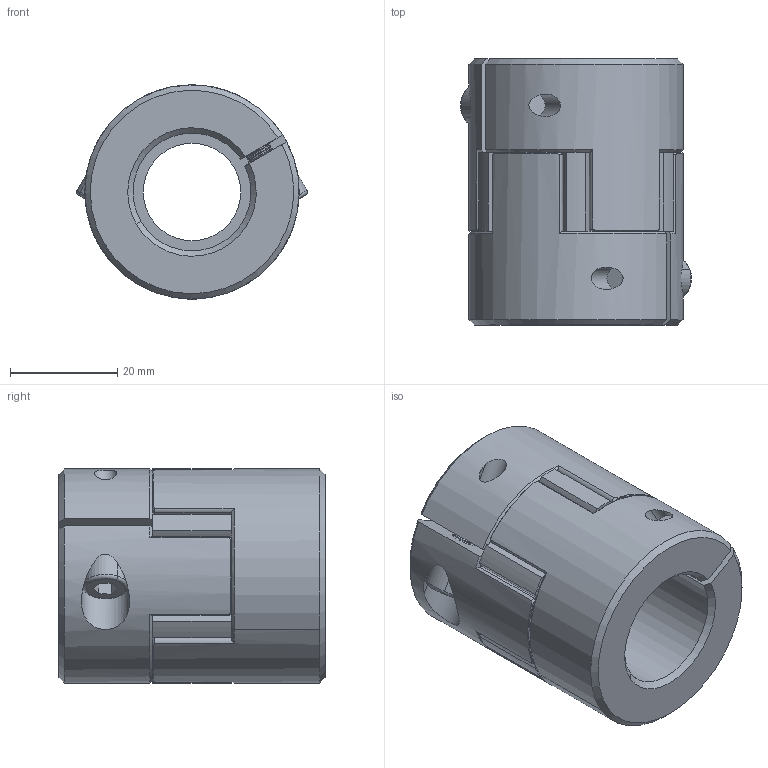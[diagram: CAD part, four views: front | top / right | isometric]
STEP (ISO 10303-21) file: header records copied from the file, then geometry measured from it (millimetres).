
FILE_DESCRIPTION (( 'STEP AP203' ), '1' );
FILE_NAME ('LF-B-D40L50-19-22.STEP', '2021-10-27T05:51:51', ( '' ), ( '' ), 'SwSTEP 2.0', 'SolidWorks 2018', '' );
FILE_SCHEMA (( 'CONFIG_CONTROL_DESIGN' ));
Length unit declared in the file: millimetre
Products named in the file (1): LF-B-D40L50-19-22
Bounding box: 43.11 x 49.7 x 40 mm (x, y, z)
Volume: 45468.5 mm3; surface area: 14702 mm2
Topology: 1 solids, 7 shells, 469 faces, 1109 edges, 658 vertices
Faces by surface type: cone 170, cylinder 169, plane 126, torus 4
Entity records: 13892 total; most frequent: CARTESIAN_POINT 2881, DIRECTION 2493, ORIENTED_EDGE 2210, EDGE_CURVE 1105, AXIS2_PLACEMENT_3D 1034, VERTEX_POINT 658, CIRCLE 564, EDGE_LOOP 487
